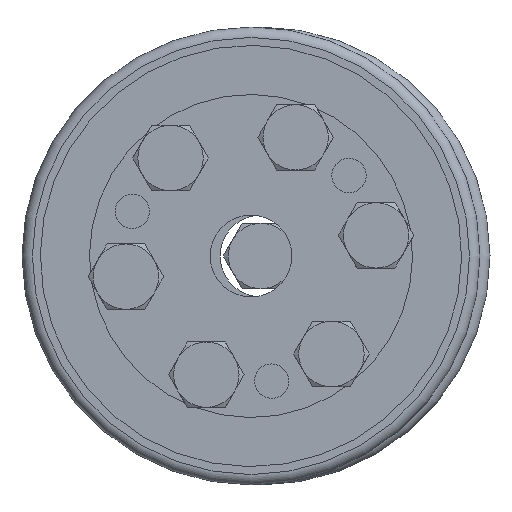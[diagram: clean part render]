
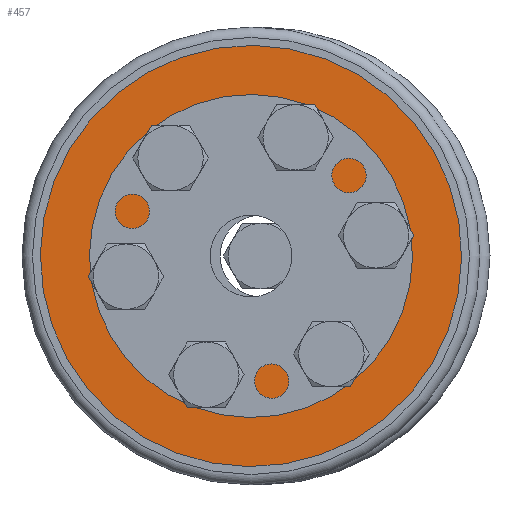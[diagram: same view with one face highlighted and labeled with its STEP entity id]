
A CAD part, left-side view. The second image highlights one B-rep face of the part: STEP entity #457.
In plain terms, the highlighted planar face has unit normal (-1, 0, 0).
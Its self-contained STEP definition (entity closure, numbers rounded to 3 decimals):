
#457 = ADVANCED_FACE( 'NONE', ( #692, #693, #694, #695, #696, #697, #698, #699 ), #700, .F. );
#692 = FACE_OUTER_BOUND( '', #937, .T. );
#693 = FACE_BOUND( '', #938, .T. );
#694 = FACE_BOUND( '', #939, .T. );
#695 = FACE_BOUND( '', #940, .T. );
#696 = FACE_BOUND( '', #941, .T. );
#697 = FACE_BOUND( '', #942, .T. );
#698 = FACE_BOUND( '', #943, .T. );
#699 = FACE_BOUND( '', #944, .T. );
#700 = PLANE( '', #945 );
#937 = EDGE_LOOP( '', ( #1308 ) );
#938 = EDGE_LOOP( '', ( #1309 ) );
#939 = EDGE_LOOP( '', ( #1310 ) );
#940 = EDGE_LOOP( '', ( #1311 ) );
#941 = EDGE_LOOP( '', ( #1312 ) );
#942 = EDGE_LOOP( '', ( #1313 ) );
#943 = EDGE_LOOP( '', ( #1314 ) );
#944 = EDGE_LOOP( '', ( #1315 ) );
#945 = AXIS2_PLACEMENT_3D( '', #1316, #1317, #1318 );
#1308 = ORIENTED_EDGE( '', *, *, #1625, .T. );
#1309 = ORIENTED_EDGE( '', *, *, #1635, .F. );
#1310 = ORIENTED_EDGE( '', *, *, #1621, .F. );
#1311 = ORIENTED_EDGE( '', *, *, #1623, .F. );
#1312 = ORIENTED_EDGE( '', *, *, #1638, .F. );
#1313 = ORIENTED_EDGE( '', *, *, #1639, .F. );
#1314 = ORIENTED_EDGE( '', *, *, #1637, .F. );
#1315 = ORIENTED_EDGE( '', *, *, #1636, .F. );
#1316 = CARTESIAN_POINT( '', ( 0., 12.2, 0. ) );
#1317 = DIRECTION( '', ( 1., 0., 0. ) );
#1318 = DIRECTION( '', ( 0., 1., 0. ) );
#1621 = EDGE_CURVE( 'NONE', #1810, #1810, #1811, .T. );
#1623 = EDGE_CURVE( 'NONE', #1814, #1814, #1815, .T. );
#1625 = EDGE_CURVE( 'NONE', #1818, #1818, #1819, .T. );
#1635 = EDGE_CURVE( 'NONE', #1838, #1838, #1839, .T. );
#1636 = EDGE_CURVE( 'NONE', #1840, #1840, #1841, .T. );
#1637 = EDGE_CURVE( 'NONE', #1842, #1842, #1843, .T. );
#1638 = EDGE_CURVE( 'NONE', #1844, #1844, #1845, .T. );
#1639 = EDGE_CURVE( 'NONE', #1846, #1846, #1847, .T. );
#1810 = VERTEX_POINT( '', #2026 );
#1811 = CIRCLE( '', #2027, 2.1 );
#1814 = VERTEX_POINT( '', #2030 );
#1815 = CIRCLE( '', #2031, 2.1 );
#1818 = VERTEX_POINT( '', #2034 );
#1819 = CIRCLE( '', #2035, 25.75 );
#1838 = VERTEX_POINT( '', #2054 );
#1839 = CIRCLE( '', #2055, 2.1 );
#1840 = VERTEX_POINT( '', #2056 );
#1841 = CIRCLE( '', #2057, 2.1 );
#1842 = VERTEX_POINT( '', #2058 );
#1843 = CIRCLE( '', #2059, 2.1 );
#1844 = VERTEX_POINT( '', #2060 );
#1845 = CIRCLE( '', #2061, 2.1 );
#1846 = VERTEX_POINT( '', #2062 );
#1847 = CIRCLE( '', #2063, 12.2 );
#2026 = CARTESIAN_POINT( '', ( 0., -7.75, -11.323 ) );
#2027 = AXIS2_PLACEMENT_3D( '', #2179, #2180, #2181 );
#2030 = CARTESIAN_POINT( '', ( 0., 7.75, -11.323 ) );
#2031 = AXIS2_PLACEMENT_3D( '', #2185, #2186, #2187 );
#2034 = CARTESIAN_POINT( '', ( 0., 0., 25.75 ) );
#2035 = AXIS2_PLACEMENT_3D( '', #2191, #2192, #2193 );
#2054 = CARTESIAN_POINT( '', ( 0., -7.75, 15.523 ) );
#2055 = AXIS2_PLACEMENT_3D( '', #2221, #2222, #2223 );
#2056 = CARTESIAN_POINT( '', ( 0., 7.75, 15.523 ) );
#2057 = AXIS2_PLACEMENT_3D( '', #2224, #2225, #2226 );
#2058 = CARTESIAN_POINT( '', ( 0., -15.5, 2.1 ) );
#2059 = AXIS2_PLACEMENT_3D( '', #2227, #2228, #2229 );
#2060 = CARTESIAN_POINT( '', ( 0., 15.5, 2.1 ) );
#2061 = AXIS2_PLACEMENT_3D( '', #2230, #2231, #2232 );
#2062 = CARTESIAN_POINT( '', ( 0., 0., 12.2 ) );
#2063 = AXIS2_PLACEMENT_3D( '', #2233, #2234, #2235 );
#2179 = CARTESIAN_POINT( '', ( 0., -7.75, -13.423 ) );
#2180 = DIRECTION( '', ( -1., 0., 0. ) );
#2181 = DIRECTION( '', ( 0., 0., 1. ) );
#2185 = CARTESIAN_POINT( '', ( 0., 7.75, -13.423 ) );
#2186 = DIRECTION( '', ( -1., 0., 0. ) );
#2187 = DIRECTION( '', ( 0., 0., 1. ) );
#2191 = CARTESIAN_POINT( '', ( 0., 0., 0. ) );
#2192 = DIRECTION( '', ( -1., 0., 0. ) );
#2193 = DIRECTION( '', ( 0., 0., 1. ) );
#2221 = CARTESIAN_POINT( '', ( 0., -7.75, 13.423 ) );
#2222 = DIRECTION( '', ( -1., 0., 0. ) );
#2223 = DIRECTION( '', ( 0., 0., 1. ) );
#2224 = CARTESIAN_POINT( '', ( 0., 7.75, 13.423 ) );
#2225 = DIRECTION( '', ( -1., 0., 0. ) );
#2226 = DIRECTION( '', ( 0., 0., 1. ) );
#2227 = CARTESIAN_POINT( '', ( 0., -15.5, 0. ) );
#2228 = DIRECTION( '', ( -1., 0., 0. ) );
#2229 = DIRECTION( '', ( 0., 0., 1. ) );
#2230 = CARTESIAN_POINT( '', ( 0., 15.5, 0. ) );
#2231 = DIRECTION( '', ( -1., 0., 0. ) );
#2232 = DIRECTION( '', ( 0., 0., 1. ) );
#2233 = CARTESIAN_POINT( '', ( 0., 0., 0. ) );
#2234 = DIRECTION( '', ( -1., 0., 0. ) );
#2235 = DIRECTION( '', ( 0., 0., 1. ) );
